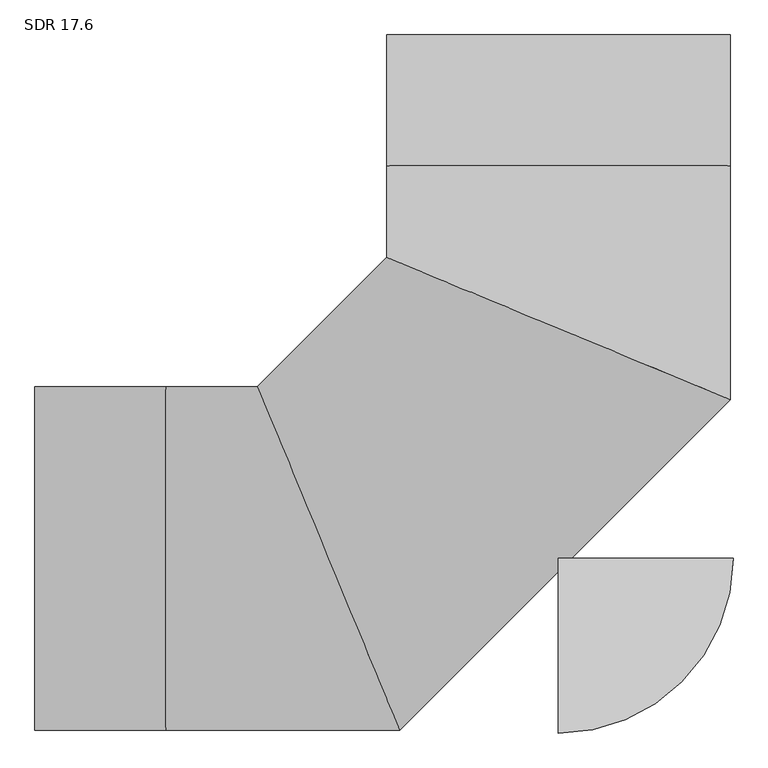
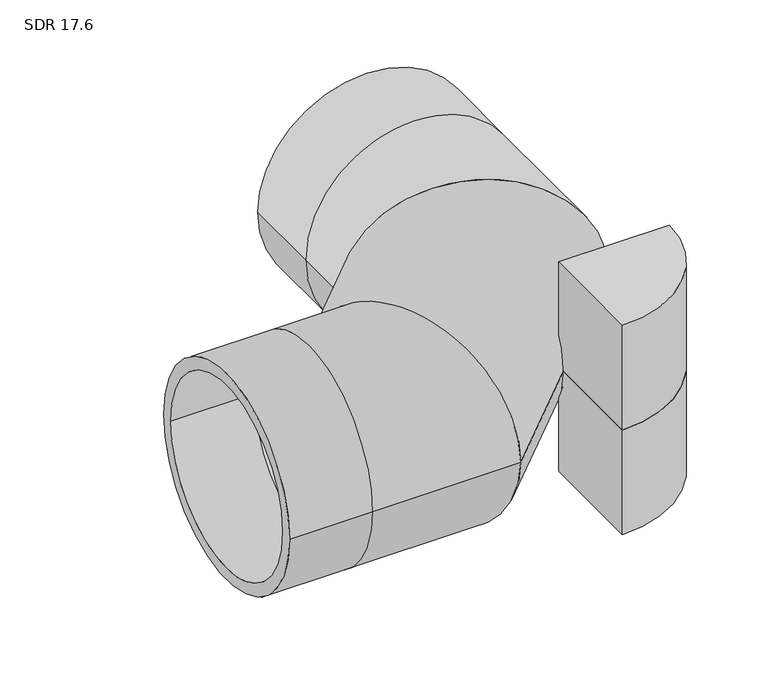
"""IFC4 building model written with IfcOpenShell, lengths in millimetres: pipe fitting geometry, Aquatherm - Elbow Blue BW Segmented : SDR 17.6."""

from ifc_helpers import new_model, si_unit, point, frame, origin, origin_with_axes, origin_2d, place, context, project, spatial, polyline, circle_curve, ellipse_curve, trimmed, segment, composite_curve, outline, extrude, source, transform, mapped, element, save
from ifc_brep_helpers import plane_surface, cylinder_surface, revolved_surface, advanced_brep


def sdr_17_6_34546163(model_context):
    return source(origin(), model_context, "Body", "SolidModel", [
        extrude(outline(composite_curve([segment(polyline([(0.0, -254.0), (0.0, 0.0), (254.0, 0.0)]), True, "CONTINUOUS"), segment(trimmed(circle_curve(origin_2d(), 254.0), [point((254.0, 0.0))], [point((0.0, -254.0))], False, "CARTESIAN"), True, "CONTINUOUS")], self_intersect=False)), frame((0.0, 0.0, -254.0), z_axis=(0.0, 0.0, 1.0), x_axis=(1.0, 0.0, 0.0)), (0.0, 0.0, 1.0), 254.0),
        extrude(outline(composite_curve([segment(trimmed(circle_curve(origin_2d(), 254.0), [point((254.0, 0.0))], [point((0.0, -254.0))], False, "CARTESIAN"), True, "CONTINUOUS"), segment(polyline([(0.0, -254.0), (0.0, 0.0), (254.0, 0.0)]), True, "CONTINUOUS")], self_intersect=False)), origin_with_axes(), (0.0, 0.0, 1.0), 254.0),
        advanced_brep(
        [(-762.0, -250.19, 0.0), (-762.0, 250.19, 0.0), (-762.0, -221.761842, 0.0), (-762.0, 221.761842, 0.0), (250.19, 762.0, 0.0), (-250.19, 762.0, 0.0), (221.761842, 762.0, 0.0), (-221.761842, 762.0, 0.0), (-571.5, -250.19, 0.0), (-571.5, 250.19, 0.0), (-571.5, -221.761842, 0.0), (-571.5, 221.761842, 0.0), (-231.1448579, -250.19, 0.0), (-438.4090403, 250.19, 0.0), (-242.9201865, -221.761842, 0.0), (-426.6337117, 221.761842, 0.0), (250.19, 231.1448579, 0.0), (-250.19, 438.4090403, 0.0), (221.761842, 242.9201865, 0.0), (-221.761842, 426.6337117, 0.0), (-250.19, 571.5, 0.0), (250.19, 571.5, 0.0), (-221.761842, 571.5, 0.0), (221.761842, 571.5, 0.0)],
        [
            (0, 1, circle_curve(frame((-762.0, 0.0, 0.0), z_axis=(-1.0, 0.0, 0.0), x_axis=(0.0, 1.0, 0.0)), 250.19)),
            (1, 0, circle_curve(frame((-762.0, 0.0, 0.0), z_axis=(-1.0, 0.0, 0.0), x_axis=(0.0, 1.0, 0.0)), 250.19)),
            (2, 3, circle_curve(frame((-762.0, 0.0, 0.0), z_axis=(1.0, 0.0, 0.0), x_axis=(0.0, 1.0, 0.0)), 221.761842)),
            (3, 2, circle_curve(frame((-762.0, 0.0, 0.0), z_axis=(1.0, 0.0, 0.0), x_axis=(0.0, 1.0, 0.0)), 221.761842)),
            (4, 5, circle_curve(frame((0.0, 762.0, 0.0), z_axis=(0.0, 1.0, 0.0), x_axis=(-1.0, 0.0, 0.0)), 250.19)),
            (5, 4, circle_curve(frame((0.0, 762.0, 0.0), z_axis=(0.0, 1.0, 0.0), x_axis=(-1.0, 0.0, 0.0)), 250.19)),
            (6, 7, circle_curve(frame((0.0, 762.0, 0.0), z_axis=(0.0, -1.0, 0.0), x_axis=(-1.0, 0.0, 0.0)), 221.761842)),
            (7, 6, circle_curve(frame((0.0, 762.0, 0.0), z_axis=(0.0, -1.0, 0.0), x_axis=(-1.0, 0.0, 0.0)), 221.761842)),
            (0, 8),
            (8, 9, circle_curve(frame((-571.5, 0.0, 0.0), z_axis=(-1.0, 0.0, 0.0), x_axis=(0.0, 1.0, 0.0)), 250.19)),
            (9, 1),
            (9, 8, circle_curve(frame((-571.5, 0.0, 0.0), z_axis=(-1.0, 0.0, 0.0), x_axis=(0.0, 1.0, 0.0)), 250.19)),
            (2, 10),
            (10, 11, circle_curve(frame((-571.5, 0.0, 0.0), z_axis=(1.0, 0.0, 0.0), x_axis=(0.0, 1.0, 0.0)), 221.761842)),
            (11, 3),
            (11, 10, circle_curve(frame((-571.5, 0.0, 0.0), z_axis=(1.0, 0.0, 0.0), x_axis=(0.0, 1.0, 0.0)), 221.761842)),
            (8, 12),
            (12, 13, ellipse_curve(frame((-334.7769491, 0.0, 0.0), z_axis=(-0.9238795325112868, -0.38268343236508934, 0.0), x_axis=(-0.3826834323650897, 0.9238795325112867, 0.0)), 270.8037046, 250.19)),
            (13, 9),
            (13, 12, ellipse_curve(frame((-334.7769491, 0.0, 0.0), z_axis=(-0.9238795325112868, -0.38268343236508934, 0.0), x_axis=(-0.3826834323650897, 0.9238795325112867, 0.0)), 270.8037046, 250.19)),
            (10, 14),
            (14, 15, ellipse_curve(frame((-334.7769491, 0.0, 0.0), z_axis=(0.9238795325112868, 0.38268343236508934, 0.0), x_axis=(0.3826834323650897, -0.9238795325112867, 0.0)), 240.0332881, 221.761842)),
            (15, 11),
            (15, 14, ellipse_curve(frame((-334.7769491, 0.0, 0.0), z_axis=(0.9238795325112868, 0.38268343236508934, 0.0), x_axis=(0.3826834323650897, -0.9238795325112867, 0.0)), 240.0332881, 221.761842)),
            (12, 16),
            (16, 17, ellipse_curve(frame((0.0, 334.7769491, 0.0), z_axis=(-0.3826834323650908, -0.9238795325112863, 0.0), x_axis=(-0.9238795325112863, 0.38268343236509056, 0.0)), 270.8037046, 250.19)),
            (17, 13),
            (17, 16, ellipse_curve(frame((0.0, 334.7769491, 0.0), z_axis=(-0.3826834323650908, -0.9238795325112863, 0.0), x_axis=(-0.9238795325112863, 0.38268343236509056, 0.0)), 270.8037046, 250.19)),
            (14, 18),
            (18, 19, ellipse_curve(frame((0.0, 334.7769491, 0.0), z_axis=(0.3826834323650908, 0.9238795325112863, 0.0), x_axis=(0.9238795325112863, -0.38268343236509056, 0.0)), 240.0332881, 221.761842)),
            (19, 15),
            (19, 18, ellipse_curve(frame((0.0, 334.7769491, 0.0), z_axis=(0.3826834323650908, 0.9238795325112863, 0.0), x_axis=(0.9238795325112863, -0.38268343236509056, 0.0)), 240.0332881, 221.761842)),
            (20, 21, circle_curve(frame((0.0, 571.5, 0.0), z_axis=(0.0, 1.0, 0.0), x_axis=(-1.0, 0.0, 0.0)), 250.19)),
            (21, 4),
            (5, 20),
            (21, 20, circle_curve(frame((0.0, 571.5, 0.0), z_axis=(0.0, 1.0, 0.0), x_axis=(-1.0, 0.0, 0.0)), 250.19)),
            (22, 23, circle_curve(frame((0.0, 571.5, 0.0), z_axis=(0.0, -1.0, 0.0), x_axis=(-1.0, 0.0, 0.0)), 221.761842)),
            (23, 6),
            (7, 22),
            (23, 22, circle_curve(frame((0.0, 571.5, 0.0), z_axis=(0.0, -1.0, 0.0), x_axis=(-1.0, 0.0, 0.0)), 221.761842)),
            (16, 21),
            (20, 17),
            (18, 23),
            (22, 19),
        ],
        [
            plane_surface(frame((-762.0, 0.0, 0.0), z_axis=(-1.0, 0.0, 0.0), x_axis=(0.0, 0.0, 1.0))),
            plane_surface(frame((0.0, 762.0, 0.0), z_axis=(0.0, 1.0, 0.0), x_axis=(0.0, 0.0, 1.0))),
            cylinder_surface(frame((-762.0, 0.0, 0.0), z_axis=(-1.0, 0.0, 0.0), x_axis=(0.0, 1.0, 0.0)), 250.19),
            revolved_surface(polyline([(-571.5, 221.761842, 0.0), (-762.0, 221.761842, 0.0)]), (-762.0, 0.0, 0.0), (1.0, 0.0, 0.0)),
            cylinder_surface(frame((-571.5, 0.0, 0.0), z_axis=(-1.0, 0.0, 0.0), x_axis=(0.0, 1.0, 0.0)), 250.19),
            revolved_surface(polyline([(-242.9201865, 221.761842, 0.0), (-571.5, 221.761842, 0.0)]), (-571.5, 0.0, 0.0), (1.0, 0.0, 0.0)),
            cylinder_surface(frame((-334.7769491, 0.0, 0.0), z_axis=(-0.707106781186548, -0.7071067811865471, 0.0), x_axis=(-0.7071067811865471, 0.707106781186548, 0.0)), 250.19),
            revolved_surface(polyline([(-91.85676257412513, 556.5387910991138, 0.0), (-556.5387910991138, 91.85676257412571, 0.0)]), (-334.7769491, 0.0, 0.0), (0.707106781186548, 0.7071067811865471, 0.0)),
            cylinder_surface(frame((0.0, 571.5, 0.0), z_axis=(0.0, -1.0, 0.0), x_axis=(-1.0, 0.0, 0.0)), 250.19),
            revolved_surface(polyline([(-221.761842, 762.0, 0.0), (-221.761842, 571.5, 0.0)]), (0.0, 571.5, 0.0), (0.0, 1.0, 0.0)),
            cylinder_surface(frame((0.0, 334.7769491, 0.0), z_axis=(0.0, -1.0, 0.0), x_axis=(-1.0, 0.0, 0.0)), 250.19),
            revolved_surface(polyline([(-221.761842, 571.5, 0.0), (-221.761842, 242.9201865, 0.0)]), (0.0, 334.7769491, 0.0), (0.0, 1.0, 0.0)),
        ],
        [
            (0, [[1, 2], [3, 4]]),
            (1, [[5, 6], [7, 8]]),
            (2, [[-1, 9, 10, 11]]),
            (2, [[-2, -11, 12, -9]]),
            (3, [[-3, 13, 14, 15]]),
            (3, [[-4, -15, 16, -13]]),
            (4, [[-10, 17, 18, 19]]),
            (4, [[-12, -19, 20, -17]]),
            (5, [[-14, 21, 22, 23]]),
            (5, [[-16, -23, 24, -21]]),
            (6, [[-18, 25, 26, 27]]),
            (6, [[-20, -27, 28, -25]]),
            (7, [[-22, 29, 30, 31]]),
            (7, [[-24, -31, 32, -29]]),
            (8, [[33, 34, -6, 35]]),
            (8, [[36, -35, -5, -34]]),
            (9, [[37, 38, -8, 39]]),
            (9, [[40, -39, -7, -38]]),
            (10, [[-26, 41, -33, 42]]),
            (10, [[-28, -42, -36, -41]]),
            (11, [[-30, 43, -37, 44]]),
            (11, [[-32, -44, -40, -43]]),
        ],
    ),
    ])


if __name__ == "__main__":
    model = new_model("IFC4")
    model_context = context("Model", 3, world=origin())
    ifc_project = project(units=[si_unit("LENGTHUNIT", "METRE", prefix="MILLI")], contexts=[model_context])
    site = spatial("IfcSite", under=ifc_project)
    building = spatial("IfcBuilding", under=site)
    placement = place(None, origin())
    sdr_17_6_shape = sdr_17_6_34546163(model_context)
    element("IfcPipeFitting", 1, ObjectType="Aquatherm - Elbow Blue BW Segmented : SDR 17.6", at=placement, inside=building, context=model_context, shape_type="MappedRepresentation", body=[
        mapped(sdr_17_6_shape, transform((0.0, 0.0, 0.0), x_axis=(1.0, 0.0, 0.0), y_axis=(0.0, 1.0, 0.0), z_axis=(0.0, 0.0, 1.0))),
    ])
    save(model, "model.ifc")
